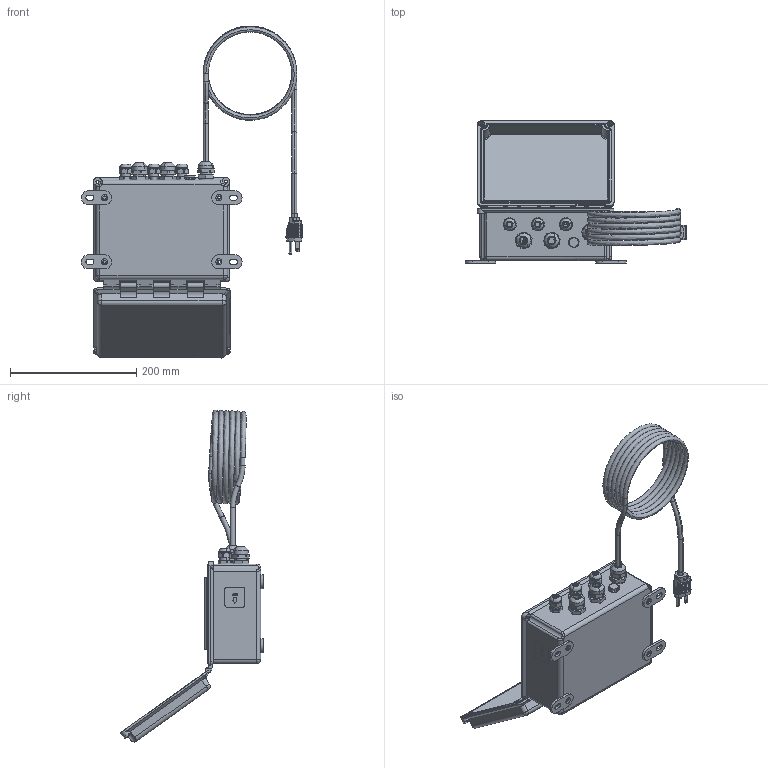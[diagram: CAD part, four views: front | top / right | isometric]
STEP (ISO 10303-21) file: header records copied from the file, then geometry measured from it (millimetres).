
FILE_DESCRIPTION (( 'STEP AP203' ), '1' );
FILE_NAME ('177709.STEP', '2019-06-06T13:13:44', ( '' ), ( '' ), 'SwSTEP 2.0', 'SolidWorks 2017', '' );
FILE_SCHEMA (( 'CONFIG_CONTROL_DESIGN' ));
Products named in the file (2): 177709
Bounding box: 349.73 x 225.75 x 525.12 mm (x, y, z)
Surface area: 487804.6 mm2 (no closed solid volume)
Topology: 0 solids, 337 shells, 2189 faces, 11346 edges, 9332 vertices
Faces by surface type: plane 918, cylinder 851, torus 273, cone 65, bspline 62, sphere 20
Entity records: 128636 total; most frequent: CARTESIAN_POINT 36690, DIRECTION 20127, ORIENTED_EDGE 15076, EDGE_CURVE 11332, VERTEX_POINT 9332, AXIS2_PLACEMENT_3D 7587, CIRCLE 5458, VECTOR 4953
